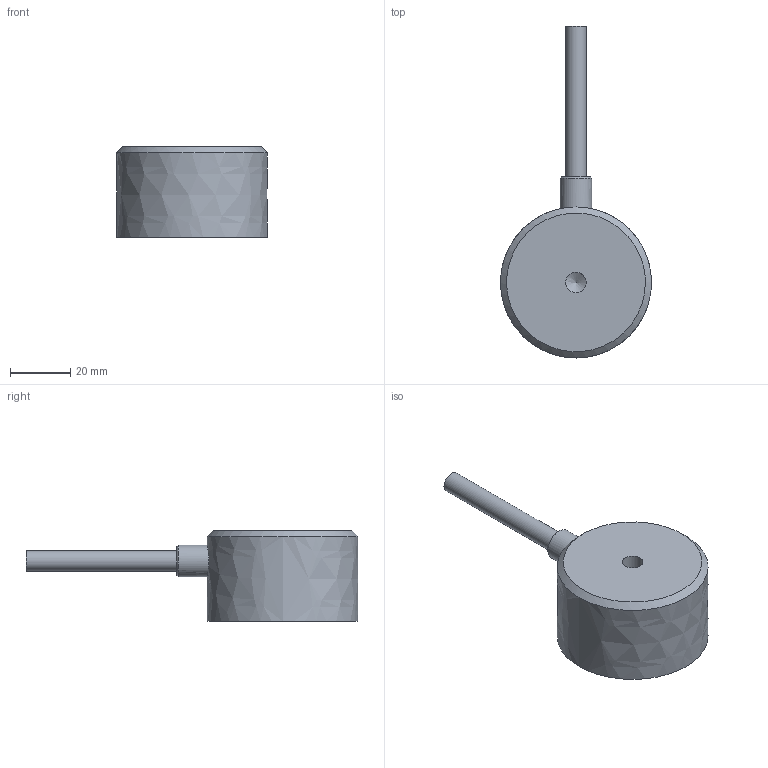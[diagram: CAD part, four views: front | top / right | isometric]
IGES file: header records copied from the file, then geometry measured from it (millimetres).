
Global section: file name: EMH-1-50Dx30H-S-DC24V; native system: unknown; preprocessor: unknown; author: unknown; organization: unknown; date: 20231215.114654; units: millimetre
Bounding box: 50 x 110 x 30 mm (x, y, z)
Volume: 60480.7 mm3; surface area: 10290.3 mm2
Topology: 2 solids, 2 shells, 16 faces, 28 edges, 19 vertices
Faces by surface type: bspline 16
